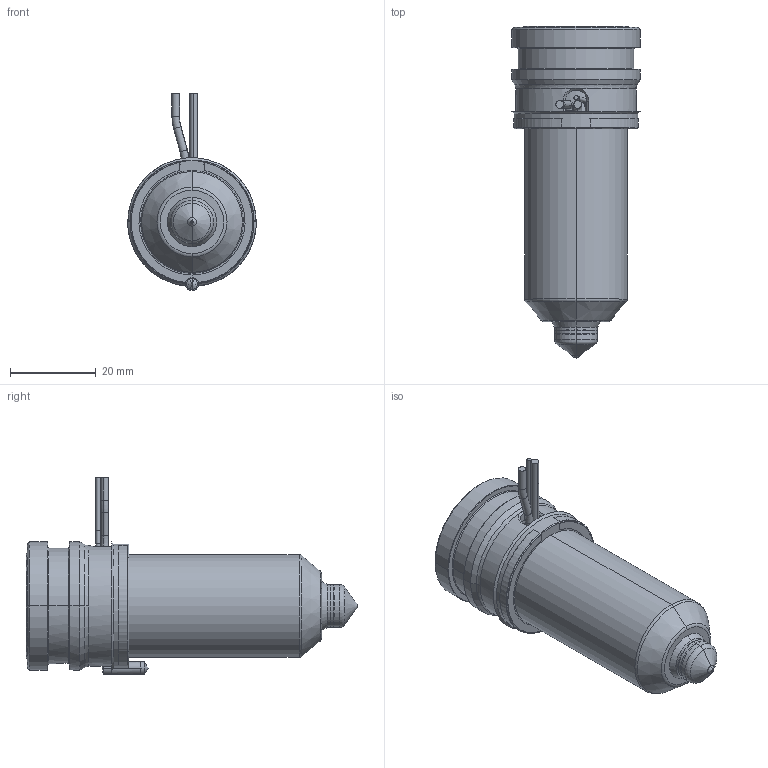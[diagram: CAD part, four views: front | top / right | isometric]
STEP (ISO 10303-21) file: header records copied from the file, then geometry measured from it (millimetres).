
FILE_DESCRIPTION((''),'2;1');
FILE_NAME('MPN-10-29-TX10-056-A','2026-02-11T11:16:42',('UVRWS'),('Thermoplay S.p.A.'),'CREO PARAMETRIC BY PTC INC, 2023494','CREO PARAMETRIC BY PTC INC, 2023494','');
FILE_SCHEMA(('CONFIG_CONTROL_DESIGN','SHAPE_APPEARANCE_LAYERS_GROUPS'));
Length unit declared in the file: millimetre
Products named in the file (1): MPN-10-29-TX10-056-A
Bounding box: 30 x 77.5 x 46 mm (x, y, z)
Volume: 25071.2 mm3; surface area: 24431 mm2
Topology: 2 solids, 3 shells, 551 faces, 1455 edges, 899 vertices
Faces by surface type: cylinder 180, plane 143, bspline 79, torus 68, cone 66, sphere 11, extrusion 4
Entity records: 30841 total; most frequent: CARTESIAN_POINT 14485, ORIENTED_EDGE 2894, DIRECTION 2641, EDGE_CURVE 1447, AXIS2_PLACEMENT_3D 1045, VERTEX_POINT 899, EDGE_LOOP 580, CIRCLE 576
